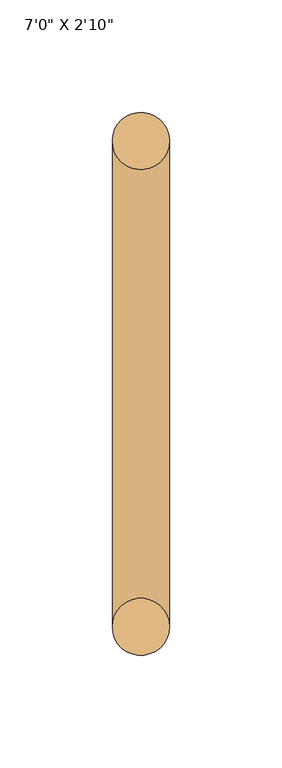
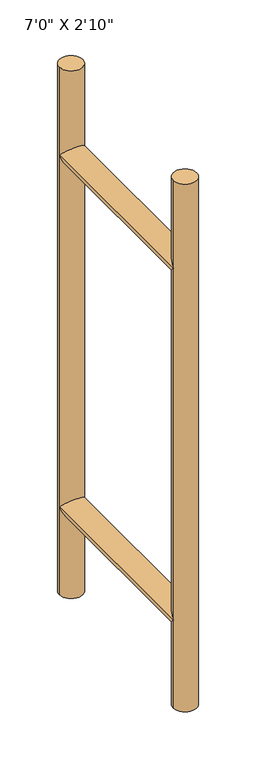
"""IFC4 building model written with IfcOpenShell, lengths in millimetres: door geometry."""

from ifc_helpers import new_model, si_unit, frame, origin, place, context, project, spatial, circle_curve, ellipse_curve, source, transform, mapped, element, save
from ifc_brep_helpers import plane_surface, cylinder_surface, advanced_brep


def door_c68eb9f7(model_context):
    return source(origin(), model_context, "Body", "AdvancedBrep", [
        advanced_brep(
        [(-355.6, -133.35, 1219.2), (-381.0, -133.35, 1219.2), (-381.0, 82.55, 1219.2), (-355.6, 82.55, 1219.2), (-355.6, -133.35, 812.8), (-381.0, -133.35, 812.8), (-381.0, 82.55, 812.8), (-355.6, 82.55, 812.8), (-381.0, -133.35, 1320.8), (-355.6, -133.35, 1320.8), (-381.0, 82.55, 1320.8), (-355.6, 82.55, 1320.8), (-381.0, -133.35, 711.2), (-355.6, -133.35, 711.2), (-381.0, 82.55, 711.2), (-355.6, 82.55, 711.2)],
        [
            (0, 1, ellipse_curve(frame((-368.3, -133.35, 1219.2), z_axis=(0.0, 0.7071067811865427, 0.7071067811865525), x_axis=(0.0, -0.7071067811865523, 0.7071067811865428)), 17.9605122, 12.7)),
            (1, 2),
            (2, 3, ellipse_curve(frame((-368.3, 82.55, 1219.2), z_axis=(0.0, -0.7071067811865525, 0.7071067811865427), x_axis=(0.0, -0.7071067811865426, -0.7071067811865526)), 17.9605122, 12.7)),
            (3, 0),
            (3, 2, ellipse_curve(frame((-368.3, 82.55, 1219.2), z_axis=(0.0, -0.7071067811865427, -0.7071067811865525), x_axis=(0.0, -0.7071067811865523, 0.7071067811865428)), 17.9605122, 12.7)),
            (1, 0, ellipse_curve(frame((-368.3, -133.35, 1219.2), z_axis=(0.0, 0.7071067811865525, -0.7071067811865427), x_axis=(0.0, -0.7071067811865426, -0.7071067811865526)), 17.9605122, 12.7)),
            (4, 5, ellipse_curve(frame((-368.3, -133.35, 812.8), z_axis=(0.0, 0.7071067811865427, 0.7071067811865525), x_axis=(0.0, -0.7071067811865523, 0.7071067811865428)), 17.9605122, 12.7)),
            (5, 6),
            (6, 7, ellipse_curve(frame((-368.3, 82.55, 812.8), z_axis=(0.0, -0.7071067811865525, 0.7071067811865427), x_axis=(0.0, -0.7071067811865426, -0.7071067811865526)), 17.9605122, 12.7)),
            (7, 4),
            (7, 6, ellipse_curve(frame((-368.3, 82.55, 812.8), z_axis=(0.0, -0.7071067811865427, -0.7071067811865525), x_axis=(0.0, -0.7071067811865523, 0.7071067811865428)), 17.9605122, 12.7)),
            (5, 4, ellipse_curve(frame((-368.3, -133.35, 812.8), z_axis=(0.0, 0.7071067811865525, -0.7071067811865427), x_axis=(0.0, -0.7071067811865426, -0.7071067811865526)), 17.9605122, 12.7)),
            (8, 9, circle_curve(frame((-368.3, -133.35, 1320.8), z_axis=(0.0, 0.0, 1.0), x_axis=(1.0, 0.0, 0.0)), 12.7)),
            (9, 8, circle_curve(frame((-368.3, -133.35, 1320.8), z_axis=(0.0, 0.0, 1.0), x_axis=(1.0, 0.0, 0.0)), 12.7)),
            (10, 11, circle_curve(frame((-368.3, 82.55, 1320.8), z_axis=(0.0, 0.0, 1.0), x_axis=(1.0, 0.0, 0.0)), 12.7)),
            (11, 10, circle_curve(frame((-368.3, 82.55, 1320.8), z_axis=(0.0, 0.0, 1.0), x_axis=(1.0, 0.0, 0.0)), 12.7)),
            (12, 13, circle_curve(frame((-368.3, -133.35, 711.2), z_axis=(0.0, 0.0, -1.0), x_axis=(1.0, 0.0, 0.0)), 12.7)),
            (13, 12, circle_curve(frame((-368.3, -133.35, 711.2), z_axis=(0.0, 0.0, -1.0), x_axis=(1.0, 0.0, 0.0)), 12.7)),
            (14, 15, circle_curve(frame((-368.3, 82.55, 711.2), z_axis=(0.0, 0.0, -1.0), x_axis=(1.0, 0.0, 0.0)), 12.7)),
            (15, 14, circle_curve(frame((-368.3, 82.55, 711.2), z_axis=(0.0, 0.0, -1.0), x_axis=(1.0, 0.0, 0.0)), 12.7)),
            (8, 1),
            (1, 5),
            (5, 12),
            (13, 4),
            (4, 0),
            (0, 9),
            (7, 3),
            (2, 6),
            (15, 7),
            (6, 14),
            (10, 2),
            (3, 11),
        ],
        [
            cylinder_surface(frame((-368.3, 82.55, 1219.2), z_axis=(0.0, -1.0, 0.0), x_axis=(1.0, 0.0, 0.0)), 12.7),
            cylinder_surface(frame((-368.3, 0.0, 812.8), z_axis=(0.0, -1.0, 0.0), x_axis=(1.0, 0.0, 0.0)), 12.7),
            plane_surface(frame((-355.6, -133.35, 1320.8), z_axis=(0.0, 0.0, 1.0), x_axis=(0.0, -1.0, 0.0))),
            plane_surface(frame((-355.6, -133.35, 711.2), z_axis=(0.0, 0.0, -1.0), x_axis=(0.0, 1.0, 0.0))),
            cylinder_surface(frame((-368.3, -133.35, 711.2), z_axis=(0.0, 0.0, 1.0), x_axis=(1.0, 0.0, 0.0)), 12.7),
            cylinder_surface(frame((-368.3, 82.55, 0.0), z_axis=(0.0, 0.0, 1.0), x_axis=(1.0, 0.0, 0.0)), 12.7),
        ],
        [
            (0, [[1, 2, 3, 4]]),
            (0, [[5, -2, 6, -4]]),
            (1, [[7, 8, 9, 10]]),
            (1, [[11, -8, 12, -10]]),
            (2, [[13, 14]]),
            (2, [[15, 16]]),
            (3, [[17, 18]]),
            (3, [[19, 20]]),
            (4, [[21, 22, 23, -18, 24, 25, 26, -13]]),
            (4, [[-12, -22, -1, -25]]),
            (4, [[-26, -6, -21, -14]]),
            (4, [[-23, -7, -24, -17]]),
            (5, [[-11, 27, -3, 28]]),
            (5, [[29, -9, 30, -20]]),
            (5, [[31, -5, 32, -15]]),
            (5, [[-32, -27, -29, -19, -30, -28, -31, -16]]),
        ],
    ),
    ])


if __name__ == "__main__":
    model = new_model("IFC4")
    model_context = context("Model", 3, world=origin())
    ifc_project = project(units=[si_unit("LENGTHUNIT", "METRE", prefix="MILLI")], contexts=[model_context])
    site = spatial("IfcSite", under=ifc_project)
    building = spatial("IfcBuilding", under=site)
    placement = place(None, origin())
    door_shape = door_c68eb9f7(model_context)
    element("IfcDoor", 1, ObjectType="Planitar - Single Door_Swapper : 7'0\" X 2'10\"", at=placement, inside=building, context=model_context, shape_type="MappedRepresentation", body=[
        mapped(door_shape, transform((0.0, 0.0, 0.0), x_axis=(1.0, 0.0, 0.0), y_axis=(0.0, 1.0, 0.0), z_axis=(0.0, 0.0, 1.0))),
    ])
    save(model, "model.ifc")
